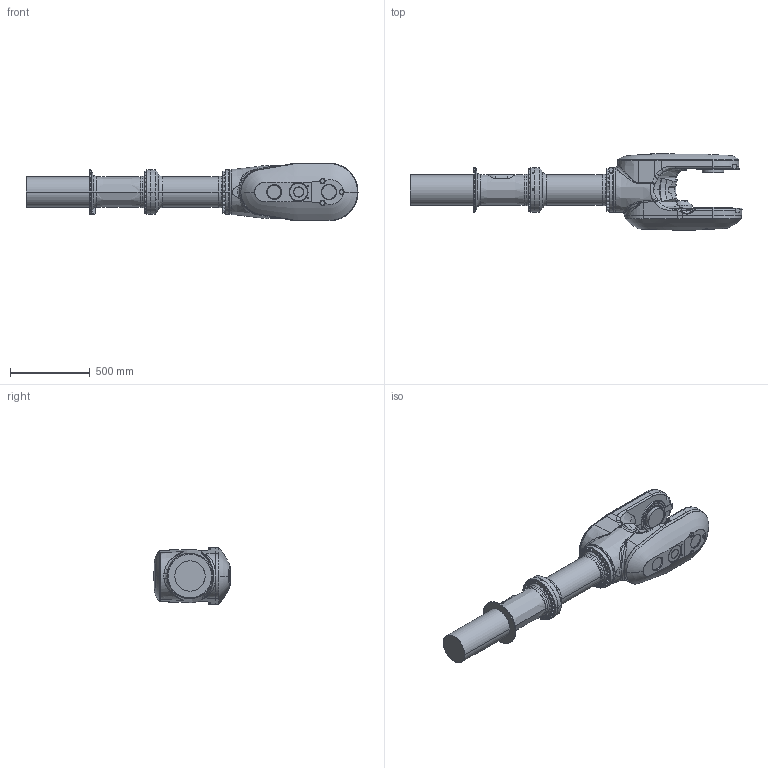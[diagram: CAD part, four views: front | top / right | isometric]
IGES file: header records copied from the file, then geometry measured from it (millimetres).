
Start section: SolidWorks IGES file using analytic representation for surfaces
Global section: file name: C:\Users\SEJAOLS6\OneDrive - ABB\Documents\SAP\7720\7720_Lightweight_models\IRB7720-MH3_510kg-330_OC_01_SW_J\IRB7710-MH3_510kg-330_OC_01_IGES_J\IRB77X0_All-330_OC_00_LINK04_CAD.igs; native system: SolidWorks 2024; preprocessor: SolidWorks 2024; author: SEJAOLS6; date: 260127.082531; units: millimetre
Bounding box: 2076.38 x 475.5 x 362.32 mm (x, y, z)
Surface area: 2304868.8 mm2 (no closed solid volume)
Topology: 0 solids, 0 shells, 884 faces, 15752 edges, 15729 vertices
Faces by surface type: bspline 451, revolution 433
